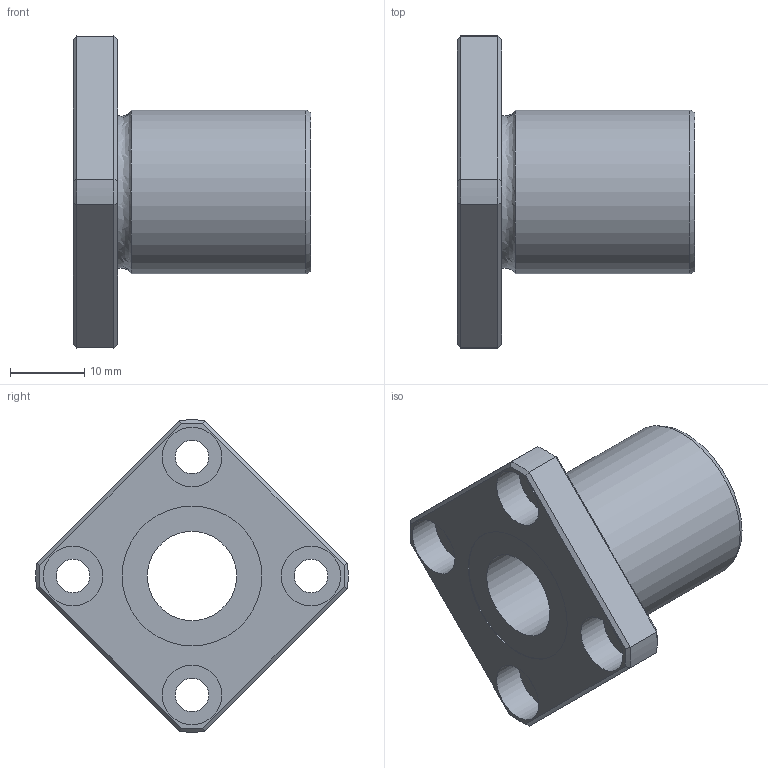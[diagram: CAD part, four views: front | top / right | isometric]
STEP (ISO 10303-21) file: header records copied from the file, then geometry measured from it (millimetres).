
FILE_DESCRIPTION((''),'2;1');
FILE_NAME('D:\製品 (図面)\カタログ用3D\リニアベアリング関連\STEP形式\LFK\LFK12.stp','2010-06-04T08:47:36',('Tsuchiya'),(''),'Autodesk Inventor 10','Autodesk Inventor 10','');
FILE_SCHEMA(('AUTOMOTIVE_DESIGN { 1 0 10303 214 1 1 1 1 }'));
Length unit declared in the file: millimetre
Products named in the file (1): LFK12
Bounding box: 32 x 41.98 x 41.98 mm (x, y, z)
Volume: 11223.1 mm3; surface area: 5913.5 mm2
Topology: 1 solids, 1 shells, 47 faces, 96 edges, 58 vertices
Faces by surface type: plane 21, cylinder 16, cone 8, torus 1, bspline 1
Full cylindrical faces by diameter (mm): 4.5 x4, 8 x4, 12 x1, 18.8 x2, 22 x1
Entity records: 1275 total; most frequent: CARTESIAN_POINT 298, DIRECTION 202, ORIENTED_EDGE 164, AXIS2_PLACEMENT_3D 89, EDGE_CURVE 82, EDGE_LOOP 78, VERTEX_POINT 58, FACE_OUTER_BOUND 47
